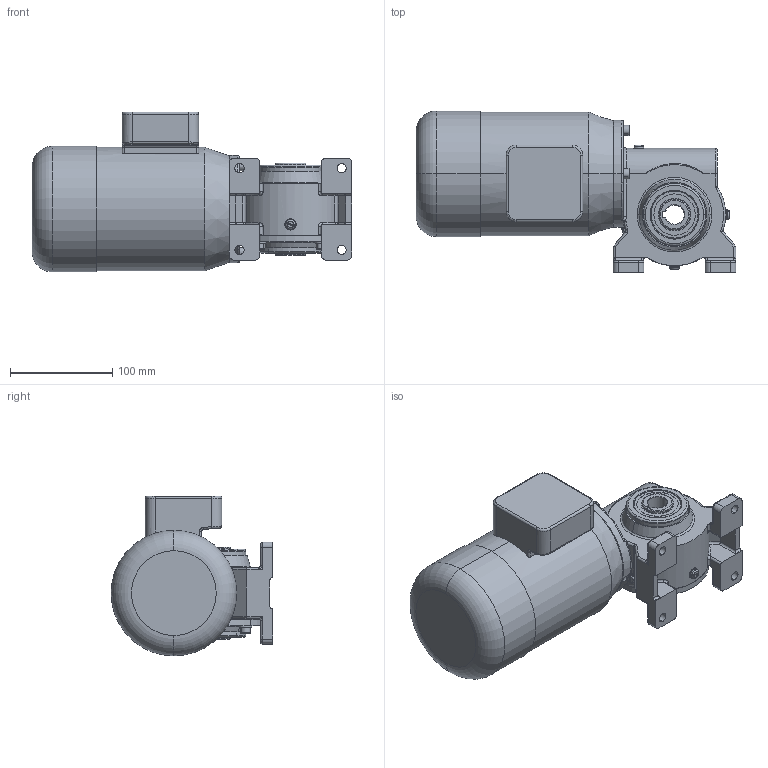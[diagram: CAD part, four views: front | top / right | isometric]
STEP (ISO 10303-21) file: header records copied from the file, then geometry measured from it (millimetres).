
FILE_DESCRIPTION (( 'STEP AP214' ), '1' );
FILE_NAME ('SN9SHH_120W_Drehstrom-Motor_C.STEP', '2021-05-10T10:12:48', ( '' ), ( '' ), 'SwSTEP 2.0', 'SolidWorks 2019', '' );
FILE_SCHEMA (( 'AUTOMOTIVE_DESIGN' ));
Length unit declared in the file: millimetre
Products named in the file (1): SN9SHH_120W_Drehstrom-Motor_C
Bounding box: 313 x 158.5 x 156.5 mm (x, y, z)
Surface area: 196161.2 mm2 (no closed solid volume)
Topology: 0 solids, 27 shells, 464 faces, 1249 edges, 779 vertices
Faces by surface type: cylinder 165, plane 153, torus 71, cone 47, bspline 24, sphere 4
Entity records: 21352 total; most frequent: CARTESIAN_POINT 4761, DIRECTION 2562, ORIENTED_EDGE 2194, EDGE_CURVE 1217, AXIS2_PLACEMENT_3D 1027, VERTEX_POINT 775, CIRCLE 586, EDGE_LOOP 530
